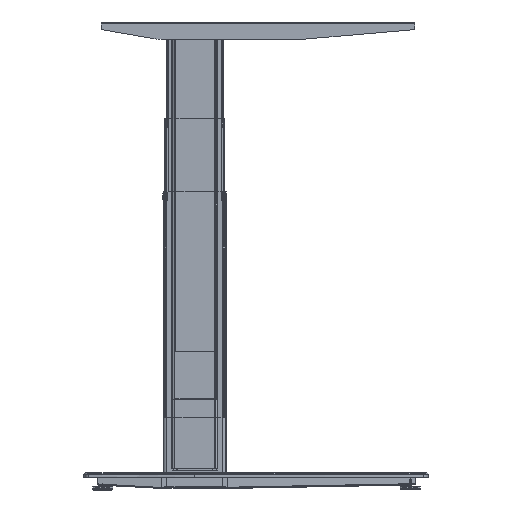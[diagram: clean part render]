
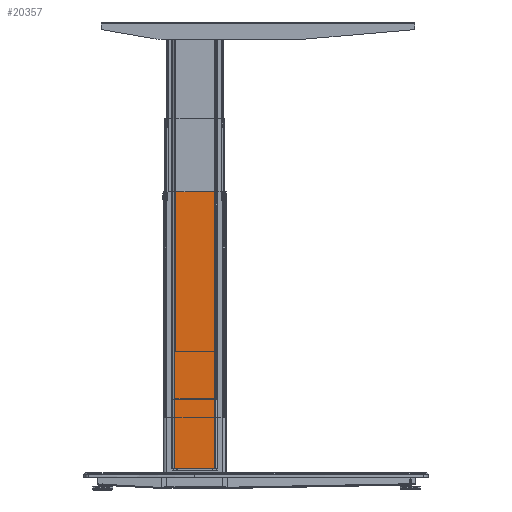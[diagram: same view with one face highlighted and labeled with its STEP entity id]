
A CAD part, left-side view. The second image highlights one B-rep face of the part: STEP entity #20357.
In plain terms, the highlighted planar face has unit normal (-1, 0, 0) as drawn and (0, -1, 0) by its records, which use the part's own axes.
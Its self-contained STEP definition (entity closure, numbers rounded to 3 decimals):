
#1540 = CARTESIAN_POINT ( 'NONE',  ( 39.49, 1.75, 37. ) ) ;
#2925 = CARTESIAN_POINT ( 'NONE',  ( -39.49, 1.75, 37. ) ) ;
#3212 = DIRECTION ( 'NONE',  ( 0., 0., -1. ) ) ;
#9057 = VECTOR ( 'NONE', #82991, 1000. ) ;
#10135 = ORIENTED_EDGE ( 'NONE', *, *, #70036, .F. ) ;
#17275 = EDGE_CURVE ( 'NONE', #27116, #37810, #66107, .T. ) ;
#20028 = EDGE_LOOP ( 'NONE', ( #33586, #10135, #95714, #69158 ) ) ;
#20322 = LINE ( 'NONE', #98879, #55456 ) ;
#20341 = FACE_OUTER_BOUND ( 'NONE', #20028, .T. ) ;
#20357 = ADVANCED_FACE ( 'NONE', ( #20341 ), #69872, .T. ) ;
#22438 = DIRECTION ( 'NONE',  ( -1., 0., 0. ) ) ;
#24715 = CARTESIAN_POINT ( 'NONE',  ( -39.49, 1.75, 585. ) ) ;
#26308 = EDGE_CURVE ( 'NONE', #27116, #98534, #20322, .T. ) ;
#27116 = VERTEX_POINT ( 'NONE', #88388 ) ;
#27903 = EDGE_CURVE ( 'NONE', #37810, #50530, #56377, .T. ) ;
#33586 = ORIENTED_EDGE ( 'NONE', *, *, #26308, .T. ) ;
#35960 = CARTESIAN_POINT ( 'NONE',  ( -40., 1.75, -88.017 ) ) ;
#37810 = VERTEX_POINT ( 'NONE', #1540 ) ;
#50530 = VERTEX_POINT ( 'NONE', #2925 ) ;
#52015 = DIRECTION ( 'NONE',  ( 0., 0., 1. ) ) ;
#52543 = VECTOR ( 'NONE', #22438, 1000. ) ;
#55456 = VECTOR ( 'NONE', #57657, 1000. ) ;
#56377 = LINE ( 'NONE', #73343, #52543 ) ;
#57657 = DIRECTION ( 'NONE',  ( -1., 0., 0. ) ) ;
#66107 = LINE ( 'NONE', #94909, #79197 ) ;
#69158 = ORIENTED_EDGE ( 'NONE', *, *, #17275, .F. ) ;
#69872 = PLANE ( 'NONE',  #85701 ) ;
#70036 = EDGE_CURVE ( 'NONE', #50530, #98534, #93758, .T. ) ;
#73343 = CARTESIAN_POINT ( 'NONE',  ( -40., 1.75, 37. ) ) ;
#74606 = CARTESIAN_POINT ( 'NONE',  ( -39.49, 1.75, -88.017 ) ) ;
#79197 = VECTOR ( 'NONE', #3212, 1000. ) ;
#82991 = DIRECTION ( 'NONE',  ( 0., 0., 1. ) ) ;
#85701 = AXIS2_PLACEMENT_3D ( 'NONE', #35960, #102645, #52015 ) ;
#88388 = CARTESIAN_POINT ( 'NONE',  ( 39.49, 1.75, 585. ) ) ;
#93758 = LINE ( 'NONE', #74606, #9057 ) ;
#94909 = CARTESIAN_POINT ( 'NONE',  ( 39.49, 1.75, -88.017 ) ) ;
#95714 = ORIENTED_EDGE ( 'NONE', *, *, #27903, .F. ) ;
#98534 = VERTEX_POINT ( 'NONE', #24715 ) ;
#98879 = CARTESIAN_POINT ( 'NONE',  ( -40., 1.75, 585. ) ) ;
#102645 = DIRECTION ( 'NONE',  ( 0., -1., 0. ) ) ;
